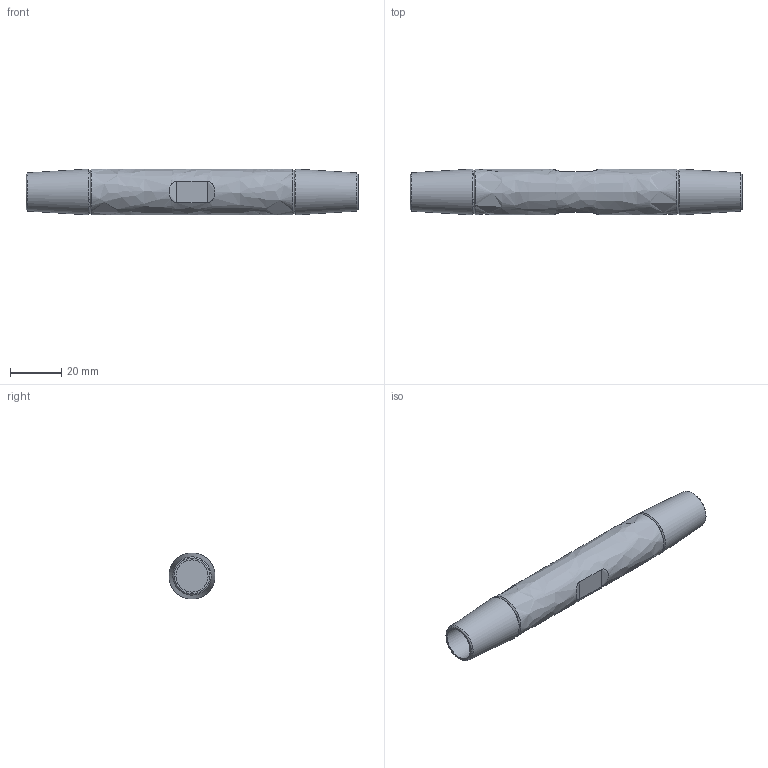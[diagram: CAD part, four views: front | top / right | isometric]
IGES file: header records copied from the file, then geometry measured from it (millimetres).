
Global section: file name: 520-012-MUF; native system: Autodesk Inventor 2016; preprocessor: unknown; author: Administrator; date: 20200630.131029; units: centimetre
Bounding box: 130 x 18 x 18 mm (x, y, z)
Volume: 26098.2 mm3; surface area: 8982.2 mm2
Topology: 1 solids, 1 shells, 21 faces, 52 edges, 36 vertices
Faces by surface type: bspline 21
